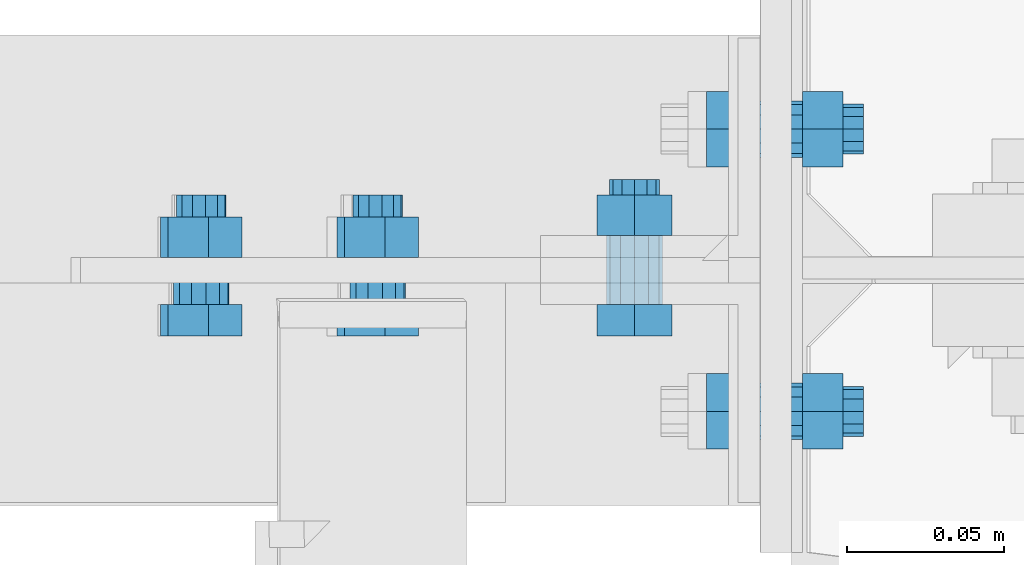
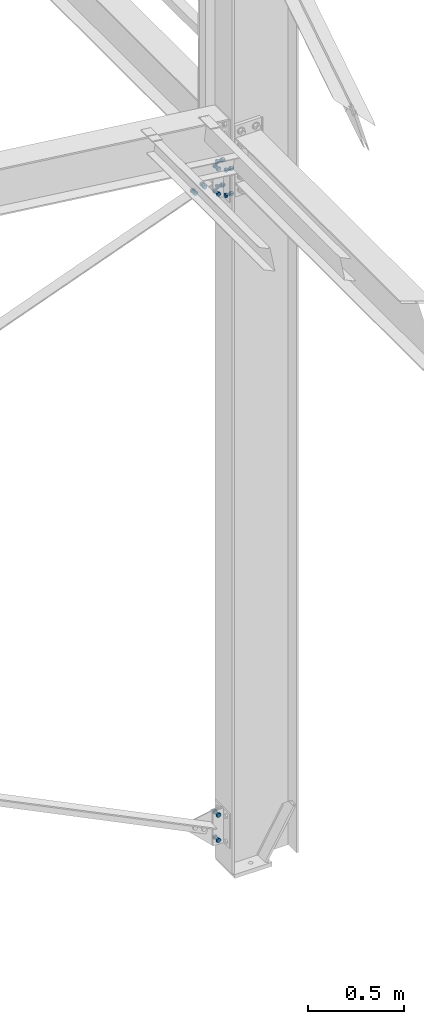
# One storey, part 294 of 3134: 5 mechanical fasteners, 5 elements without a shape of their own.
"""IFC2X3 building model written with IfcOpenShell, lengths in millimetres."""

from ifc_helpers import new_model, si_unit, frame, origin_with_axes, place, context, subcontext, project, spatial, faceted_brep, source, transform, mapped, material, type_object, element, aggregate, save


model = new_model("IFC2X3")

# Units and contexts
model_context = context("Model", 3, precision=1e-05, world=origin_with_axes())
body_context = subcontext(model_context, "Body", "Model", "MODEL_VIEW")
ifc_project = project(units=[si_unit("LENGTHUNIT", "METRE", prefix="MILLI"), si_unit("AREAUNIT", "SQUARE_METRE"), si_unit("VOLUMEUNIT", "CUBIC_METRE"), si_unit("MASSUNIT", "GRAM", prefix="KILO"), si_unit("TIMEUNIT", "SECOND"), si_unit("PLANEANGLEUNIT", "RADIAN"), si_unit("SOLIDANGLEUNIT", "STERADIAN"), si_unit("THERMODYNAMICTEMPERATUREUNIT", "DEGREE_CELSIUS"), si_unit("LUMINOUSINTENSITYUNIT", "LUMEN")], contexts=[model_context])

# Site, building, storey
site_placement = place(None, origin_with_axes())
site = spatial("IfcSite", under=ifc_project, at=site_placement, CompositionType="ELEMENT")
building_placement = place(site_placement, origin_with_axes())
building = spatial("IfcBuilding", under=site, at=building_placement, Name="Undefined", CompositionType="ELEMENT")
storey_placement = place(building_placement, origin_with_axes())
storey = spatial("IfcBuildingStorey", under=building, at=storey_placement, Name="Undefined", CompositionType="ELEMENT", Elevation=0.0)

# Assembly, mechanical fastener
assembly_1_placement = place(storey_placement, origin_with_axes())
assembly_1 = element("IfcElementAssembly", 1, at=assembly_1_placement, inside=storey, AssemblyPlace="NOTDEFINED", PredefinedType="RIGID_FRAME")
ifc_material = material(Name="8.8")
mechanical_fastener_type = type_object("IfcMechanicalFastenerType", Name="Bolt assembly")
shared_shape_1 = source(origin_with_axes(), body_context, "Body", "Brep", [
    faceted_brep([(13.856406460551, -21.0000017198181, 0.0), (6.92820323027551, -21.0000017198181, 12.0), (-6.92820323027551, -21.0000017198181, 12.0), (-13.856406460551, -21.0000017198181, 1.69692038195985e-15), (-6.92820323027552, -21.0000017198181, -12.0), (6.9282032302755, -21.0000017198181, -12.0), (6.9282032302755, -11.0000017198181, -12.0), (-6.92820323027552, -11.0000017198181, -12.0), (-13.856406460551, -11.0000017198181, 1.69692038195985e-15), (-6.92820323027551, -11.0000017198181, 12.0), (6.92820323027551, -11.0000017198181, 12.0), (13.856406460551, -11.0000017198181, 0.0), (8.0, -11.0000017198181, 0.0), (6.92820323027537, -11.0000017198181, 4.00000000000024), (3.99999999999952, -11.0000017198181, 6.92820323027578), (-8.29068785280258e-13, -11.0000017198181, 8.0), (-4.00000000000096, -11.0000017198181, 6.92820323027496), (-6.9282032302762, -11.0000017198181, 3.99999999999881), (-8.0, -11.0000017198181, -1.65813757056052e-12), (-6.92820323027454, -11.0000017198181, -4.00000000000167), (-3.99999999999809, -11.0000017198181, -6.92820323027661), (2.47832457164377e-12, -11.0000017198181, -8.0), (4.00000000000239, -11.0000017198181, -6.92820323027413), (6.92820323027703, -11.0000017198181, -3.99999999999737), (6.92820323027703, 29.0, -3.99999999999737), (4.00000000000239, 29.0, -6.92820323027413), (2.47832457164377e-12, 29.0, -8.0), (-3.99999999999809, 29.0, -6.92820323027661), (-6.92820323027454, 29.0, -4.00000000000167), (-8.0, 29.0, -1.65813757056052e-12), (-6.9282032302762, 29.0, 3.99999999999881), (-4.00000000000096, 29.0, 6.92820323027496), (-8.29068785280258e-13, 29.0, 8.0), (3.99999999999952, 29.0, 6.92820323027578), (6.92820323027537, 29.0, 4.00000000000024), (8.0, 29.0, 0.0), (13.856406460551, 10.9999982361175, 0.0), (6.92820323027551, 10.9999982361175, 12.0), (-6.92820323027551, 10.9999982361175, 12.0), (-13.856406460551, 10.9999982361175, 1.69692038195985e-15), (-6.92820323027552, 10.9999982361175, -12.0), (6.9282032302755, 10.9999982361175, -12.0), (6.9282032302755, 23.9999999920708, -12.0), (-6.92820323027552, 23.9999999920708, -12.0), (-13.856406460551, 23.9999999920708, 1.69692038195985e-15), (-6.92820323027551, 23.9999999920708, 12.0), (6.92820323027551, 23.9999999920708, 12.0), (13.856406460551, 23.9999999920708, 0.0)], [[[0, 1, 2, 3, 4, 5]], [[6, 7, 8, 9, 10, 11]], [[0, 11, 10, 1]], [[1, 10, 9, 2]], [[2, 9, 8, 3]], [[3, 8, 7, 4]], [[4, 7, 6, 5]], [[5, 6, 11, 0]], [[12, 13, 14, 15, 16, 17, 18, 19, 20, 21, 22, 23]], [[24, 25, 26, 27, 28, 29, 30, 31, 32, 33, 34, 35]], [[12, 35, 34, 13]], [[13, 34, 33, 14]], [[14, 33, 32, 15]], [[15, 32, 31, 16]], [[16, 31, 30, 17]], [[17, 30, 29, 18]], [[18, 29, 28, 19]], [[19, 28, 27, 20]], [[20, 27, 26, 21]], [[21, 26, 25, 22]], [[22, 25, 24, 23]], [[23, 24, 35, 12]], [[36, 37, 38, 39, 40, 41]], [[42, 43, 44, 45, 46, 47]], [[36, 47, 46, 37]], [[37, 46, 45, 38]], [[38, 45, 44, 39]], [[39, 44, 43, 40]], [[40, 43, 42, 41]], [[41, 42, 47, 36]]]),
    faceted_brep([(9.0, -3.99999624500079, 0.0), (7.79422863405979, -3.99999624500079, 4.50000000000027), (4.49999999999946, -3.99999624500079, 7.79422863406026), (-9.3270238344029e-13, -3.99999624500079, 9.0), (-4.50000000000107, -3.99999624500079, 7.79422863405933), (-7.79422863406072, -3.99999624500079, 4.49999999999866), (-9.0, -3.99999624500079, -1.86540476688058e-12), (-7.79422863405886, -3.99999624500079, -4.50000000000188), (-4.49999999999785, -3.99999624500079, -7.79422863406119), (2.78811514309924e-12, -3.99999624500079, -9.0), (4.50000000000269, -3.99999624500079, -7.7942286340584), (7.79422863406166, -3.99999624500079, -4.49999999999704), (7.79422863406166, 4.00000375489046, -4.49999999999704), (4.50000000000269, 4.00000375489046, -7.7942286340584), (2.78811514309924e-12, 4.00000375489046, -9.0), (-4.49999999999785, 4.00000375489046, -7.79422863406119), (-7.79422863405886, 4.00000375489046, -4.50000000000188), (-9.0, 4.00000375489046, -1.86540476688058e-12), (-7.79422863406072, 4.00000375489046, 4.49999999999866), (-4.50000000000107, 4.00000375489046, 7.79422863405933), (-9.3270238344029e-13, 4.00000375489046, 9.0), (4.49999999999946, 4.00000375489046, 7.79422863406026), (7.79422863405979, 4.00000375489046, 4.50000000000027), (9.0, 4.00000375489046, 0.0), (9.0, -10.9000017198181, 0.0), (7.79422863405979, -10.9000017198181, 4.50000000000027), (4.49999999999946, -10.9000017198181, 7.79422863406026), (-9.3270238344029e-13, -10.9000017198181, 9.0), (-4.50000000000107, -10.9000017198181, 7.79422863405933), (-7.79422863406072, -10.9000017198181, 4.49999999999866), (-9.0, -10.9000017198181, -1.86540476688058e-12), (-7.79422863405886, -10.9000017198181, -4.50000000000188), (-4.49999999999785, -10.9000017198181, -7.79422863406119), (2.78811514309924e-12, -10.9000017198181, -9.0), (4.50000000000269, -10.9000017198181, -7.7942286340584), (7.79422863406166, -10.9000017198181, -4.49999999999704), (7.79422863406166, -3.9, -4.49999999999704), (4.50000000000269, -3.9, -7.7942286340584), (2.78811514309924e-12, -3.9, -9.0), (-4.49999999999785, -3.9, -7.79422863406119), (-7.79422863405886, -3.9, -4.50000000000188), (-9.0, -3.9, -1.86540476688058e-12), (-7.79422863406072, -3.9, 4.49999999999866), (-4.50000000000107, -3.9, 7.79422863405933), (-9.3270238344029e-13, -3.9, 9.0), (4.49999999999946, -3.9, 7.79422863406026), (7.79422863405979, -3.9, 4.50000000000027), (9.0, -3.9, 0.0), (9.0, 3.9, 0.0), (7.79422863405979, 3.9, 4.50000000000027), (4.49999999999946, 3.9, 7.79422863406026), (-9.3270238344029e-13, 3.9, 9.0), (-4.50000000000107, 3.9, 7.79422863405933), (-7.79422863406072, 3.9, 4.49999999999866), (-9.0, 3.9, -1.86540476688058e-12), (-7.79422863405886, 3.9, -4.50000000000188), (-4.49999999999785, 3.9, -7.79422863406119), (2.78811514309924e-12, 3.9, -9.0), (4.50000000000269, 3.9, -7.7942286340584), (7.79422863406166, 3.9, -4.49999999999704), (7.79422863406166, 10.9999982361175, -4.49999999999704), (4.50000000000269, 10.9999982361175, -7.7942286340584), (2.78811514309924e-12, 10.9999982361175, -9.0), (-4.49999999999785, 10.9999982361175, -7.79422863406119), (-7.79422863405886, 10.9999982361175, -4.50000000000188), (-9.0, 10.9999982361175, -1.86540476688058e-12), (-7.79422863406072, 10.9999982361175, 4.49999999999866), (-4.50000000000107, 10.9999982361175, 7.79422863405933), (-9.3270238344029e-13, 10.9999982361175, 9.0), (4.49999999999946, 10.9999982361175, 7.79422863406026), (7.79422863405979, 10.9999982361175, 4.50000000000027), (9.0, 10.9999982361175, 0.0)], [[[0, 1, 2, 3, 4, 5, 6, 7, 8, 9, 10, 11]], [[12, 13, 14, 15, 16, 17, 18, 19, 20, 21, 22, 23]], [[0, 23, 22, 1]], [[1, 22, 21, 2]], [[2, 21, 20, 3]], [[3, 20, 19, 4]], [[4, 19, 18, 5]], [[5, 18, 17, 6]], [[6, 17, 16, 7]], [[7, 16, 15, 8]], [[8, 15, 14, 9]], [[9, 14, 13, 10]], [[10, 13, 12, 11]], [[11, 12, 23, 0]], [[24, 25, 26, 27, 28, 29, 30, 31, 32, 33, 34, 35]], [[36, 37, 38, 39, 40, 41, 42, 43, 44, 45, 46, 47]], [[24, 47, 46, 25]], [[25, 46, 45, 26]], [[26, 45, 44, 27]], [[27, 44, 43, 28]], [[28, 43, 42, 29]], [[29, 42, 41, 30]], [[30, 41, 40, 31]], [[31, 40, 39, 32]], [[32, 39, 38, 33]], [[33, 38, 37, 34]], [[34, 37, 36, 35]], [[35, 36, 47, 24]], [[48, 49, 50, 51, 52, 53, 54, 55, 56, 57, 58, 59]], [[60, 61, 62, 63, 64, 65, 66, 67, 68, 69, 70, 71]], [[48, 71, 70, 49]], [[49, 70, 69, 50]], [[50, 69, 68, 51]], [[51, 68, 67, 52]], [[52, 67, 66, 53]], [[53, 66, 65, 54]], [[54, 65, 64, 55]], [[55, 64, 63, 56]], [[56, 63, 62, 57]], [[57, 62, 61, 58]], [[58, 61, 60, 59]], [[59, 60, 71, 48]]]),
])
mechanical_fastener_1_placement = place(assembly_1_placement, frame((55699.9999999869, 61050.0, -30.0), z_axis=(1.0, 0.0, 0.0), x_axis=(0.0, 0.0, -1.0)))
mechanical_fastener_1 = element("IfcMechanicalFastener", 2, at=mechanical_fastener_1_placement, type_object=mechanical_fastener_type, material=ifc_material, Name="Bolt assembly", NominalDiameter=16.0, NominalLength=40.0, context=body_context, shape_type="MappedRepresentation", body=[
    mapped(shared_shape_1, transform((0.0, 0.0, 0.0))),
    mapped(shared_shape_1, transform((160.0, 0.0, 0.0))),
])
aggregate(assembly_1, [mechanical_fastener_1])

assembly_2_placement = place(storey_placement, origin_with_axes())
assembly_2 = element("IfcElementAssembly", 3, at=assembly_2_placement, inside=storey, Name="PL8", AssemblyPlace="NOTDEFINED", PredefinedType="RIGID_FRAME")
shared_shape_2 = source(origin_with_axes(), body_context, "Body", "Brep", [
    faceted_brep([(13.856406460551, -21.0000017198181, 0.0), (6.92820323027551, -21.0000017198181, 12.0), (-6.92820323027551, -21.0000017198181, 12.0), (-13.856406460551, -21.0000017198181, 1.69692038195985e-15), (-6.92820323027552, -21.0000017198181, -12.0), (6.9282032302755, -21.0000017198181, -12.0), (6.9282032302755, -11.0000017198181, -12.0), (-6.92820323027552, -11.0000017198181, -12.0), (-13.856406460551, -11.0000017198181, 1.69692038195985e-15), (-6.92820323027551, -11.0000017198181, 12.0), (6.92820323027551, -11.0000017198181, 12.0), (13.856406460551, -11.0000017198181, 0.0), (8.0, -11.0000017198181, 0.0), (6.92820323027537, -11.0000017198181, 4.00000000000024), (3.99999999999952, -11.0000017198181, 6.92820323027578), (-8.29068785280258e-13, -11.0000017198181, 8.0), (-4.00000000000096, -11.0000017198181, 6.92820323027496), (-6.9282032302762, -11.0000017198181, 3.99999999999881), (-8.0, -11.0000017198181, -1.65813757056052e-12), (-6.92820323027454, -11.0000017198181, -4.00000000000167), (-3.99999999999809, -11.0000017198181, -6.92820323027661), (2.47832457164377e-12, -11.0000017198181, -8.0), (4.00000000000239, -11.0000017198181, -6.92820323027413), (6.92820323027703, -11.0000017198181, -3.99999999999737), (6.92820323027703, 29.0, -3.99999999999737), (4.00000000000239, 29.0, -6.92820323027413), (2.47832457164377e-12, 29.0, -8.0), (-3.99999999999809, 29.0, -6.92820323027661), (-6.92820323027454, 29.0, -4.00000000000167), (-8.0, 29.0, -1.65813757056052e-12), (-6.9282032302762, 29.0, 3.99999999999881), (-4.00000000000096, 29.0, 6.92820323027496), (-8.29068785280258e-13, 29.0, 8.0), (3.99999999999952, 29.0, 6.92820323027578), (6.92820323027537, 29.0, 4.00000000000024), (8.0, 29.0, 0.0), (13.856406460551, 10.9999982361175, 0.0), (6.92820323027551, 10.9999982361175, 12.0), (-6.92820323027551, 10.9999982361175, 12.0), (-13.856406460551, 10.9999982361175, 1.69692038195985e-15), (-6.92820323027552, 10.9999982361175, -12.0), (6.9282032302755, 10.9999982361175, -12.0), (6.9282032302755, 23.9999999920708, -12.0), (-6.92820323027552, 23.9999999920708, -12.0), (-13.856406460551, 23.9999999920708, 1.69692038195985e-15), (-6.92820323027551, 23.9999999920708, 12.0), (6.92820323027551, 23.9999999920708, 12.0), (13.856406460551, 23.9999999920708, 0.0)], [[[0, 1, 2, 3, 4, 5]], [[6, 7, 8, 9, 10, 11]], [[0, 11, 10, 1]], [[1, 10, 9, 2]], [[2, 9, 8, 3]], [[3, 8, 7, 4]], [[4, 7, 6, 5]], [[5, 6, 11, 0]], [[12, 13, 14, 15, 16, 17, 18, 19, 20, 21, 22, 23]], [[24, 25, 26, 27, 28, 29, 30, 31, 32, 33, 34, 35]], [[12, 35, 34, 13]], [[13, 34, 33, 14]], [[14, 33, 32, 15]], [[15, 32, 31, 16]], [[16, 31, 30, 17]], [[17, 30, 29, 18]], [[18, 29, 28, 19]], [[19, 28, 27, 20]], [[20, 27, 26, 21]], [[21, 26, 25, 22]], [[22, 25, 24, 23]], [[23, 24, 35, 12]], [[36, 37, 38, 39, 40, 41]], [[42, 43, 44, 45, 46, 47]], [[36, 47, 46, 37]], [[37, 46, 45, 38]], [[38, 45, 44, 39]], [[39, 44, 43, 40]], [[40, 43, 42, 41]], [[41, 42, 47, 36]]]),
    faceted_brep([(9.0, -10.9000017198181, 0.0), (7.79422863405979, -10.9000017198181, 4.50000000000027), (4.49999999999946, -10.9000017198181, 7.79422863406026), (-9.3270238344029e-13, -10.9000017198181, 9.0), (-4.50000000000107, -10.9000017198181, 7.79422863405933), (-7.79422863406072, -10.9000017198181, 4.49999999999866), (-9.0, -10.9000017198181, -1.86540476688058e-12), (-7.79422863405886, -10.9000017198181, -4.50000000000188), (-4.49999999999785, -10.9000017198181, -7.79422863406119), (2.78811514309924e-12, -10.9000017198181, -9.0), (4.50000000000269, -10.9000017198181, -7.7942286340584), (7.79422863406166, -10.9000017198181, -4.49999999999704), (7.79422863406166, -3.9, -4.49999999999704), (4.50000000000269, -3.9, -7.7942286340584), (2.78811514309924e-12, -3.9, -9.0), (-4.49999999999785, -3.9, -7.79422863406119), (-7.79422863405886, -3.9, -4.50000000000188), (-9.0, -3.9, -1.86540476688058e-12), (-7.79422863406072, -3.9, 4.49999999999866), (-4.50000000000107, -3.9, 7.79422863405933), (-9.3270238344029e-13, -3.9, 9.0), (4.49999999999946, -3.9, 7.79422863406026), (7.79422863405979, -3.9, 4.50000000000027), (9.0, -3.9, 0.0), (9.0, -3.99999624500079, 0.0), (7.79422863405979, -3.99999624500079, 4.50000000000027), (4.49999999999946, -3.99999624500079, 7.79422863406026), (-9.3270238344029e-13, -3.99999624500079, 9.0), (-4.50000000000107, -3.99999624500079, 7.79422863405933), (-7.79422863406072, -3.99999624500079, 4.49999999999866), (-9.0, -3.99999624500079, -1.86540476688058e-12), (-7.79422863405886, -3.99999624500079, -4.50000000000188), (-4.49999999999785, -3.99999624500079, -7.79422863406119), (2.78811514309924e-12, -3.99999624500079, -9.0), (4.50000000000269, -3.99999624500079, -7.7942286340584), (7.79422863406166, -3.99999624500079, -4.49999999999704), (7.79422863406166, 4.00000375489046, -4.49999999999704), (4.50000000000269, 4.00000375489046, -7.7942286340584), (2.78811514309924e-12, 4.00000375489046, -9.0), (-4.49999999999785, 4.00000375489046, -7.79422863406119), (-7.79422863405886, 4.00000375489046, -4.50000000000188), (-9.0, 4.00000375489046, -1.86540476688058e-12), (-7.79422863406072, 4.00000375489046, 4.49999999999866), (-4.50000000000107, 4.00000375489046, 7.79422863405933), (-9.3270238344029e-13, 4.00000375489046, 9.0), (4.49999999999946, 4.00000375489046, 7.79422863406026), (7.79422863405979, 4.00000375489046, 4.50000000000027), (9.0, 4.00000375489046, 0.0), (9.0, 3.9, 0.0), (7.79422863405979, 3.9, 4.50000000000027), (4.49999999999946, 3.9, 7.79422863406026), (-9.3270238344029e-13, 3.9, 9.0), (-4.50000000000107, 3.9, 7.79422863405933), (-7.79422863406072, 3.9, 4.49999999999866), (-9.0, 3.9, -1.86540476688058e-12), (-7.79422863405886, 3.9, -4.50000000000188), (-4.49999999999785, 3.9, -7.79422863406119), (2.78811514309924e-12, 3.9, -9.0), (4.50000000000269, 3.9, -7.7942286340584), (7.79422863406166, 3.9, -4.49999999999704), (7.79422863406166, 10.9999982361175, -4.49999999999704), (4.50000000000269, 10.9999982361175, -7.7942286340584), (2.78811514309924e-12, 10.9999982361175, -9.0), (-4.49999999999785, 10.9999982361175, -7.79422863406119), (-7.79422863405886, 10.9999982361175, -4.50000000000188), (-9.0, 10.9999982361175, -1.86540476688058e-12), (-7.79422863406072, 10.9999982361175, 4.49999999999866), (-4.50000000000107, 10.9999982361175, 7.79422863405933), (-9.3270238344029e-13, 10.9999982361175, 9.0), (4.49999999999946, 10.9999982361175, 7.79422863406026), (7.79422863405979, 10.9999982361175, 4.50000000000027), (9.0, 10.9999982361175, 0.0)], [[[0, 1, 2, 3, 4, 5, 6, 7, 8, 9, 10, 11]], [[12, 13, 14, 15, 16, 17, 18, 19, 20, 21, 22, 23]], [[0, 23, 22, 1]], [[1, 22, 21, 2]], [[2, 21, 20, 3]], [[3, 20, 19, 4]], [[4, 19, 18, 5]], [[5, 18, 17, 6]], [[6, 17, 16, 7]], [[7, 16, 15, 8]], [[8, 15, 14, 9]], [[9, 14, 13, 10]], [[10, 13, 12, 11]], [[11, 12, 23, 0]], [[24, 25, 26, 27, 28, 29, 30, 31, 32, 33, 34, 35]], [[36, 37, 38, 39, 40, 41, 42, 43, 44, 45, 46, 47]], [[24, 47, 46, 25]], [[25, 46, 45, 26]], [[26, 45, 44, 27]], [[27, 44, 43, 28]], [[28, 43, 42, 29]], [[29, 42, 41, 30]], [[30, 41, 40, 31]], [[31, 40, 39, 32]], [[32, 39, 38, 33]], [[33, 38, 37, 34]], [[34, 37, 36, 35]], [[35, 36, 47, 24]], [[48, 49, 50, 51, 52, 53, 54, 55, 56, 57, 58, 59]], [[60, 61, 62, 63, 64, 65, 66, 67, 68, 69, 70, 71]], [[48, 71, 70, 49]], [[49, 70, 69, 50]], [[50, 69, 68, 51]], [[51, 68, 67, 52]], [[52, 67, 66, 53]], [[53, 66, 65, 54]], [[54, 65, 64, 55]], [[55, 64, 63, 56]], [[56, 63, 62, 57]], [[57, 62, 61, 58]], [[58, 61, 60, 59]], [[59, 60, 71, 48]]]),
])
mechanical_fastener_2_placement = place(assembly_2_placement, frame((55699.9999999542, 61050.0, 4070.28192102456), z_axis=(1.0, 0.0, 0.0), x_axis=(0.0, 0.0, -1.0)))
mechanical_fastener_2 = element("IfcMechanicalFastener", 4, at=mechanical_fastener_2_placement, type_object=mechanical_fastener_type, material=ifc_material, Name="Bolt assembly", NominalDiameter=16.0, NominalLength=40.0, context=body_context, shape_type="MappedRepresentation", body=[
    mapped(shared_shape_2, transform((0.0, 0.0, 0.0))),
    mapped(shared_shape_2, transform((160.0, 0.0, 0.0))),
])
aggregate(assembly_2, [mechanical_fastener_2])

assembly_3_placement = place(storey_placement, origin_with_axes())
assembly_3 = element("IfcElementAssembly", 5, at=assembly_3_placement, inside=storey, AssemblyPlace="NOTDEFINED", PredefinedType="RIGID_FRAME")
shared_shape_3 = source(origin_with_axes(), body_context, "Body", "Brep", [
    faceted_brep([(13.856406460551, -21.0000017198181, 0.0), (6.92820323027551, -21.0000017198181, 12.0), (-6.92820323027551, -21.0000017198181, 12.0), (-13.856406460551, -21.0000017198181, 1.69692038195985e-15), (-6.92820323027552, -21.0000017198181, -12.0), (6.9282032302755, -21.0000017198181, -12.0), (6.9282032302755, -11.0000017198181, -12.0), (-6.92820323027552, -11.0000017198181, -12.0), (-13.856406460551, -11.0000017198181, 1.69692038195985e-15), (-6.92820323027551, -11.0000017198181, 12.0), (6.92820323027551, -11.0000017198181, 12.0), (13.856406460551, -11.0000017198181, 0.0), (8.0, -11.0000017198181, 0.0), (6.92820323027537, -11.0000017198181, 4.00000000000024), (3.99999999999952, -11.0000017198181, 6.92820323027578), (-8.29068785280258e-13, -11.0000017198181, 8.0), (-4.00000000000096, -11.0000017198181, 6.92820323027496), (-6.9282032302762, -11.0000017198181, 3.99999999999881), (-8.0, -11.0000017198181, -1.65813757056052e-12), (-6.92820323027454, -11.0000017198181, -4.00000000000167), (-3.99999999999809, -11.0000017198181, -6.92820323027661), (2.47832457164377e-12, -11.0000017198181, -8.0), (4.00000000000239, -11.0000017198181, -6.92820323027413), (6.92820323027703, -11.0000017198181, -3.99999999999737), (6.92820323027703, 23.9999999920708, -3.99999999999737), (4.00000000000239, 23.9999999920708, -6.92820323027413), (2.47832457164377e-12, 23.9999999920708, -8.0), (-3.99999999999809, 23.9999999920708, -6.92820323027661), (-6.92820323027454, 23.9999999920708, -4.00000000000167), (-8.0, 23.9999999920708, -1.65813757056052e-12), (-6.9282032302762, 23.9999999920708, 3.99999999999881), (-4.00000000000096, 23.9999999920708, 6.92820323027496), (-8.29068785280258e-13, 23.9999999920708, 8.0), (3.99999999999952, 23.9999999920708, 6.92820323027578), (6.92820323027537, 23.9999999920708, 4.00000000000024), (8.0, 23.9999999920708, 0.0), (13.856406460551, 3.99999999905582, 0.0), (6.92820323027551, 3.99999999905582, 12.0), (-6.92820323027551, 3.99999999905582, 12.0), (-13.856406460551, 3.99999999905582, 1.69692038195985e-15), (-6.92820323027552, 3.99999999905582, -12.0), (6.9282032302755, 3.99999999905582, -12.0), (6.9282032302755, 16.9999999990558, -12.0), (-6.92820323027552, 16.9999999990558, -12.0), (-13.856406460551, 16.9999999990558, 1.69692038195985e-15), (-6.92820323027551, 16.9999999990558, 12.0), (6.92820323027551, 16.9999999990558, 12.0), (13.856406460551, 16.9999999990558, 0.0)], [[[0, 1, 2, 3, 4, 5]], [[6, 7, 8, 9, 10, 11]], [[0, 11, 10, 1]], [[1, 10, 9, 2]], [[2, 9, 8, 3]], [[3, 8, 7, 4]], [[4, 7, 6, 5]], [[5, 6, 11, 0]], [[12, 13, 14, 15, 16, 17, 18, 19, 20, 21, 22, 23]], [[24, 25, 26, 27, 28, 29, 30, 31, 32, 33, 34, 35]], [[12, 35, 34, 13]], [[13, 34, 33, 14]], [[14, 33, 32, 15]], [[15, 32, 31, 16]], [[16, 31, 30, 17]], [[17, 30, 29, 18]], [[18, 29, 28, 19]], [[19, 28, 27, 20]], [[20, 27, 26, 21]], [[21, 26, 25, 22]], [[22, 25, 24, 23]], [[23, 24, 35, 12]], [[36, 37, 38, 39, 40, 41]], [[42, 43, 44, 45, 46, 47]], [[36, 47, 46, 37]], [[37, 46, 45, 38]], [[38, 45, 44, 39]], [[39, 44, 43, 40]], [[40, 43, 42, 41]], [[41, 42, 47, 36]]]),
    faceted_brep([(9.0, -4.10000000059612, 0.0), (7.79422863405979, -4.10000000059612, 4.50000000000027), (4.49999999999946, -4.10000000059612, 7.79422863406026), (-9.3270238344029e-13, -4.10000000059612, 9.0), (-4.50000000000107, -4.10000000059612, 7.79422863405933), (-7.79422863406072, -4.10000000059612, 4.49999999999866), (-9.0, -4.10000000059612, -1.86540476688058e-12), (-7.79422863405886, -4.10000000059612, -4.50000000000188), (-4.49999999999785, -4.10000000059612, -7.79422863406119), (2.78811514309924e-12, -4.10000000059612, -9.0), (4.50000000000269, -4.10000000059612, -7.7942286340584), (7.79422863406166, -4.10000000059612, -4.49999999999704), (7.79422863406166, 4.00000375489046, -4.49999999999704), (4.50000000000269, 4.00000375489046, -7.7942286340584), (2.78811514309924e-12, 4.00000375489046, -9.0), (-4.49999999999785, 4.00000375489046, -7.79422863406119), (-7.79422863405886, 4.00000375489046, -4.50000000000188), (-9.0, 4.00000375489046, -1.86540476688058e-12), (-7.79422863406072, 4.00000375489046, 4.49999999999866), (-4.50000000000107, 4.00000375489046, 7.79422863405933), (-9.3270238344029e-13, 4.00000375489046, 9.0), (4.49999999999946, 4.00000375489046, 7.79422863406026), (7.79422863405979, 4.00000375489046, 4.50000000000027), (9.0, 4.00000375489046, 0.0), (9.0, -10.9000017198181, 0.0), (7.79422863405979, -10.9000017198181, 4.50000000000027), (4.49999999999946, -10.9000017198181, 7.79422863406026), (-9.3270238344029e-13, -10.9000017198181, 9.0), (-4.50000000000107, -10.9000017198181, 7.79422863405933), (-7.79422863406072, -10.9000017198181, 4.49999999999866), (-9.0, -10.9000017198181, -1.86540476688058e-12), (-7.79422863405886, -10.9000017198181, -4.50000000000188), (-4.49999999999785, -10.9000017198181, -7.79422863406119), (2.78811514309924e-12, -10.9000017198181, -9.0), (4.50000000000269, -10.9000017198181, -7.7942286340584), (7.79422863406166, -10.9000017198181, -4.49999999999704), (7.79422863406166, -3.9, -4.49999999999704), (4.50000000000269, -3.9, -7.7942286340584), (2.78811514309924e-12, -3.9, -9.0), (-4.49999999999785, -3.9, -7.79422863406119), (-7.79422863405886, -3.9, -4.50000000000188), (-9.0, -3.9, -1.86540476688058e-12), (-7.79422863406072, -3.9, 4.49999999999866), (-4.50000000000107, -3.9, 7.79422863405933), (-9.3270238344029e-13, -3.9, 9.0), (4.49999999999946, -3.9, 7.79422863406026), (7.79422863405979, -3.9, 4.50000000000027), (9.0, -3.9, 0.0)], [[[0, 1, 2, 3, 4, 5, 6, 7, 8, 9, 10, 11]], [[12, 13, 14, 15, 16, 17, 18, 19, 20, 21, 22, 23]], [[0, 23, 22, 1]], [[1, 22, 21, 2]], [[2, 21, 20, 3]], [[3, 20, 19, 4]], [[4, 19, 18, 5]], [[5, 18, 17, 6]], [[6, 17, 16, 7]], [[7, 16, 15, 8]], [[8, 15, 14, 9]], [[9, 14, 13, 10]], [[10, 13, 12, 11]], [[11, 12, 23, 0]], [[24, 25, 26, 27, 28, 29, 30, 31, 32, 33, 34, 35]], [[36, 37, 38, 39, 40, 41, 42, 43, 44, 45, 46, 47]], [[24, 47, 46, 25]], [[25, 46, 45, 26]], [[26, 45, 44, 27]], [[27, 44, 43, 28]], [[28, 43, 42, 29]], [[29, 42, 41, 30]], [[30, 41, 40, 31]], [[31, 40, 39, 32]], [[32, 39, 38, 33]], [[33, 38, 37, 34]], [[34, 37, 36, 35]], [[35, 36, 47, 24]]]),
])
mechanical_fastener_3_placement = place(assembly_3_placement, frame((55561.8498392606, 61050.0, 3964.23125956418), z_axis=(-0.347634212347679, 0.0, 0.937630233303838), x_axis=(0.937630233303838, 0.0, 0.347634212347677)))
mechanical_fastener_3 = element("IfcMechanicalFastener", 6, at=mechanical_fastener_3_placement, type_object=mechanical_fastener_type, material=ifc_material, Name="Bolt assembly", NominalDiameter=16.0, NominalLength=35.0, context=body_context, shape_type="MappedRepresentation", body=[
    mapped(shared_shape_3, transform((0.0, 0.0, 0.0))),
    mapped(shared_shape_3, transform((59.9999999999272, 0.0, 5.40239852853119e-10))),
])
aggregate(assembly_3, [mechanical_fastener_3])

assembly_4_placement = place(storey_placement, origin_with_axes())
assembly_4 = element("IfcElementAssembly", 7, at=assembly_4_placement, inside=storey, AssemblyPlace="NOTDEFINED", PredefinedType="RIGID_FRAME")
shared_shape_4 = source(origin_with_axes(), body_context, "Body", "Brep", [
    faceted_brep([(13.856406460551, -16.999999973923, 0.0), (6.92820323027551, -16.999999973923, 12.0), (-6.92820323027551, -16.999999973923, 12.0), (-13.856406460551, -16.999999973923, 1.69692038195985e-15), (-6.92820323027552, -16.999999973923, -12.0), (6.9282032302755, -16.999999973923, -12.0), (6.9282032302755, -7.0, -12.0), (-6.92820323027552, -7.0, -12.0), (-13.856406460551, -7.0, 1.69692038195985e-15), (-6.92820323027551, -7.0, 12.0), (6.92820323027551, -7.0, 12.0), (13.856406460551, -7.0, 0.0), (8.0, -7.0, 0.0), (6.92820323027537, -7.0, 4.00000000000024), (3.99999999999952, -7.0, 6.92820323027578), (-8.29068785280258e-13, -7.0, 8.0), (-4.00000000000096, -7.0, 6.92820323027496), (-6.9282032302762, -7.0, 3.99999999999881), (-8.0, -7.0, -1.65813757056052e-12), (-6.92820323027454, -7.0, -4.00000000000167), (-3.99999999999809, -7.0, -6.92820323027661), (2.47832457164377e-12, -7.0, -8.0), (4.00000000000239, -7.0, -6.92820323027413), (6.92820323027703, -7.0, -3.99999999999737), (6.92820323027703, 33.0, -3.99999999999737), (4.00000000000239, 33.0, -6.92820323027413), (2.47832457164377e-12, 33.0, -8.0), (-3.99999999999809, 33.0, -6.92820323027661), (-6.92820323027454, 33.0, -4.00000000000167), (-8.0, 33.0, -1.65813757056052e-12), (-6.9282032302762, 33.0, 3.99999999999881), (-4.00000000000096, 33.0, 6.92820323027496), (-8.29068785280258e-13, 33.0, 8.0), (3.99999999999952, 33.0, 6.92820323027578), (6.92820323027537, 33.0, 4.00000000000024), (8.0, 33.0, 0.0), (13.856406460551, 13.5000000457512, 0.0), (6.92820323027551, 13.5000000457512, 12.0), (-6.92820323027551, 13.5000000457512, 12.0), (-13.856406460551, 13.5000000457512, 1.69692038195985e-15), (-6.92820323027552, 13.5000000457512, -12.0), (6.9282032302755, 13.5000000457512, -12.0), (6.9282032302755, 26.5000000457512, -12.0), (-6.92820323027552, 26.5000000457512, -12.0), (-13.856406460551, 26.5000000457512, 1.69692038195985e-15), (-6.92820323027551, 26.5000000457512, 12.0), (6.92820323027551, 26.5000000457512, 12.0), (13.856406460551, 26.5000000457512, 0.0)], [[[0, 1, 2, 3, 4, 5]], [[6, 7, 8, 9, 10, 11]], [[0, 11, 10, 1]], [[1, 10, 9, 2]], [[2, 9, 8, 3]], [[3, 8, 7, 4]], [[4, 7, 6, 5]], [[5, 6, 11, 0]], [[12, 13, 14, 15, 16, 17, 18, 19, 20, 21, 22, 23]], [[24, 25, 26, 27, 28, 29, 30, 31, 32, 33, 34, 35]], [[12, 35, 34, 13]], [[13, 34, 33, 14]], [[14, 33, 32, 15]], [[15, 32, 31, 16]], [[16, 31, 30, 17]], [[17, 30, 29, 18]], [[18, 29, 28, 19]], [[19, 28, 27, 20]], [[20, 27, 26, 21]], [[21, 26, 25, 22]], [[22, 25, 24, 23]], [[23, 24, 35, 12]], [[36, 37, 38, 39, 40, 41]], [[42, 43, 44, 45, 46, 47]], [[36, 47, 46, 37]], [[37, 46, 45, 38]], [[38, 45, 44, 39]], [[39, 44, 43, 40]], [[40, 43, 42, 41]], [[41, 42, 47, 36]]]),
    faceted_brep([(9.0, -0.1, 0.0), (7.79422863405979, -0.1, 4.50000000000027), (4.49999999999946, -0.1, 7.79422863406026), (-9.3270238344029e-13, -0.1, 9.0), (-4.50000000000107, -0.1, 7.79422863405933), (-7.79422863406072, -0.1, 4.49999999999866), (-9.0, -0.1, -1.86540476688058e-12), (-7.79422863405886, -0.1, -4.50000000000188), (-4.49999999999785, -0.1, -7.79422863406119), (2.78811514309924e-12, -0.1, -9.0), (4.50000000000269, -0.1, -7.7942286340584), (7.79422863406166, -0.1, -4.49999999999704), (7.79422863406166, 13.5000000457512, -4.49999999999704), (4.50000000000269, 13.5000000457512, -7.7942286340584), (2.78811514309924e-12, 13.5000000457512, -9.0), (-4.49999999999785, 13.5000000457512, -7.79422863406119), (-7.79422863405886, 13.5000000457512, -4.50000000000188), (-9.0, 13.5000000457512, -1.86540476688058e-12), (-7.79422863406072, 13.5000000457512, 4.49999999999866), (-4.50000000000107, 13.5000000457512, 7.79422863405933), (-9.3270238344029e-13, 13.5000000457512, 9.0), (4.49999999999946, 13.5000000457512, 7.79422863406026), (7.79422863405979, 13.5000000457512, 4.50000000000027), (9.0, 13.5000000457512, 0.0), (9.0, -6.89999997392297, 0.0), (7.79422863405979, -6.89999997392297, 4.50000000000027), (4.49999999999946, -6.89999997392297, 7.79422863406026), (-9.3270238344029e-13, -6.89999997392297, 9.0), (-4.50000000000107, -6.89999997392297, 7.79422863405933), (-7.79422863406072, -6.89999997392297, 4.49999999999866), (-9.0, -6.89999997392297, -1.86540476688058e-12), (-7.79422863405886, -6.89999997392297, -4.50000000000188), (-4.49999999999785, -6.89999997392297, -7.79422863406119), (2.78811514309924e-12, -6.89999997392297, -9.0), (4.50000000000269, -6.89999997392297, -7.7942286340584), (7.79422863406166, -6.89999997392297, -4.49999999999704), (7.79422863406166, 0.100000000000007, -4.49999999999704), (4.50000000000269, 0.100000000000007, -7.7942286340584), (2.78811514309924e-12, 0.100000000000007, -9.0), (-4.49999999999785, 0.100000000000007, -7.79422863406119), (-7.79422863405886, 0.100000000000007, -4.50000000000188), (-9.0, 0.100000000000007, -1.86540476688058e-12), (-7.79422863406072, 0.100000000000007, 4.49999999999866), (-4.50000000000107, 0.100000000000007, 7.79422863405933), (-9.3270238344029e-13, 0.100000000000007, 9.0), (4.49999999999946, 0.100000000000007, 7.79422863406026), (7.79422863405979, 0.100000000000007, 4.50000000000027), (9.0, 0.100000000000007, 0.0)], [[[0, 1, 2, 3, 4, 5, 6, 7, 8, 9, 10, 11]], [[12, 13, 14, 15, 16, 17, 18, 19, 20, 21, 22, 23]], [[0, 23, 22, 1]], [[1, 22, 21, 2]], [[2, 21, 20, 3]], [[3, 20, 19, 4]], [[4, 19, 18, 5]], [[5, 18, 17, 6]], [[6, 17, 16, 7]], [[7, 16, 15, 8]], [[8, 15, 14, 9]], [[9, 14, 13, 10]], [[10, 13, 12, 11]], [[11, 12, 23, 0]], [[24, 25, 26, 27, 28, 29, 30, 31, 32, 33, 34, 35]], [[36, 37, 38, 39, 40, 41, 42, 43, 44, 45, 46, 47]], [[24, 47, 46, 25]], [[25, 46, 45, 26]], [[26, 45, 44, 27]], [[27, 44, 43, 28]], [[28, 43, 42, 29]], [[29, 42, 41, 30]], [[30, 41, 40, 31]], [[31, 40, 39, 32]], [[32, 39, 38, 33]], [[33, 38, 37, 34]], [[34, 37, 36, 35]], [[35, 36, 47, 24]]]),
])
mechanical_fastener_4_placement = place(assembly_4_placement, frame((55739.9999999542, 61050.0, 4070.28192099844), z_axis=(0.0, -1.0, 0.0), x_axis=(0.0, 0.0, -1.0)))
mechanical_fastener_4 = element("IfcMechanicalFastener", 8, at=mechanical_fastener_4_placement, type_object=mechanical_fastener_type, material=ifc_material, Name="Bolt assembly", NominalDiameter=16.0, NominalLength=40.0, context=body_context, shape_type="MappedRepresentation", body=[
    mapped(shared_shape_4, transform((0.0, 0.0, -45.0))),
    mapped(shared_shape_4, transform((160.0, 0.0, -45.0))),
])
aggregate(assembly_4, [mechanical_fastener_4])

assembly_5_placement = place(storey_placement, origin_with_axes())
assembly_5 = element("IfcElementAssembly", 9, at=assembly_5_placement, inside=storey, AssemblyPlace="NOTDEFINED", PredefinedType="RIGID_FRAME")
mechanical_fastener_5_placement = place(assembly_5_placement, frame((55739.9999999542, 61050.0, 4070.28192099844), z_axis=(0.0, -1.0, 0.0), x_axis=(0.0, 0.0, -1.0)))
mechanical_fastener_5 = element("IfcMechanicalFastener", 10, at=mechanical_fastener_5_placement, type_object=mechanical_fastener_type, material=ifc_material, Name="Bolt assembly", NominalDiameter=16.0, NominalLength=40.0, context=body_context, shape_type="MappedRepresentation", body=[
    mapped(shared_shape_4, transform((0.0, 0.0, 45.0))),
    mapped(shared_shape_4, transform((160.0, 0.0, 45.0))),
])
aggregate(assembly_5, [mechanical_fastener_5])

save(model, "model.ifc")
